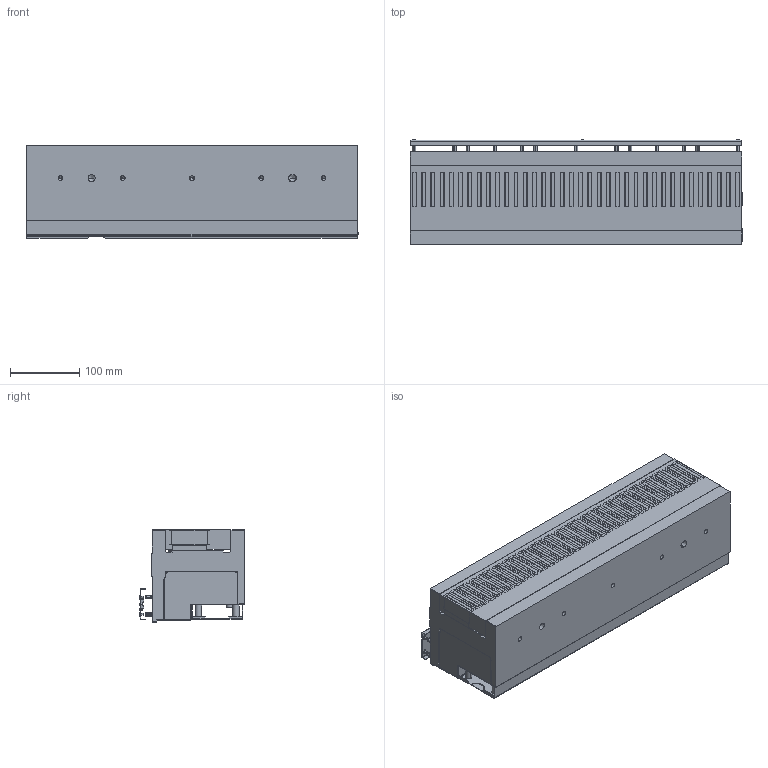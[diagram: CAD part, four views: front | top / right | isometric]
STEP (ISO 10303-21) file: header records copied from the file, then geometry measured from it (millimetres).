
FILE_DESCRIPTION (( 'STEP AP214' ), '1' );
FILE_NAME ('FTS-MT.SUB003.STEP', '2025-02-07T06:05:02', ( '' ), ( '' ), 'SwSTEP 2.0', 'SolidWorks 2021', '' );
FILE_SCHEMA (( 'AUTOMOTIVE_DESIGN' ));
Length unit declared in the file: millimetre
Products named in the file (12): 4x7x4mm+EVA单面-3M背胶片+国产; FTS-MT.SUB003; FTS-MT.SUB003.0001; FTS-MT.SUB001.0002; DDL480-94-CG+480mm×50mm直线线圈+上海会通; FTS-MT.SUB001.0003_默认<按加工>; LDT3.0-L3.2+导光柱+国产; FTS-MT.SUB001.0005; M3x4-内六角平圆头-全牙-12.9级-碳钢-镀锌+螺钉+国产; FTS-MT.SUB003.0002; FTS-MT.SUB001.0004; H5-M3×9＋6+六角铁柱镀镍+国产
Assembly tree (42 placements, depth 2):
  FTS-MT.SUB003
    FTS-MT.SUB003.0001
    FTS-MT.SUB003.0002
    FTS-MT.SUB001.0002
    FTS-MT.SUB001.0003_默认<按加工>
    FTS-MT.SUB001.0004
    FTS-MT.SUB001.0005
    DDL480-94-CG+480mm×50mm直线线圈+上海会通
    4x7x4mm+EVA单面-3M背胶片+国产  x2
    LDT3.0-L3.2+导光柱+国产  x3
    H5-M3×9＋6+六角铁柱镀镍+国产  x16
    M3x4-内六角平圆头-全牙-12.9级-碳钢-镀锌+螺钉+国产  x14
Bounding box: 479.6 x 152.65 x 133 mm (x, y, z)
Volume: 5223210 mm3; surface area: 1291516.7 mm2
Topology: 116 solids, 116 shells, 3498 faces, 8738 edges, 5595 vertices
Faces by surface type: plane 1641, cylinder 1391, cone 340, torus 58, bspline 48, sphere 20
Entity records: 112286 total; most frequent: CARTESIAN_POINT 19207, DIRECTION 15932, ORIENTED_EDGE 14760, EDGE_CURVE 7380, AXIS2_PLACEMENT_3D 5787, VERTEX_POINT 4812, VECTOR 4358, LINE 4358
